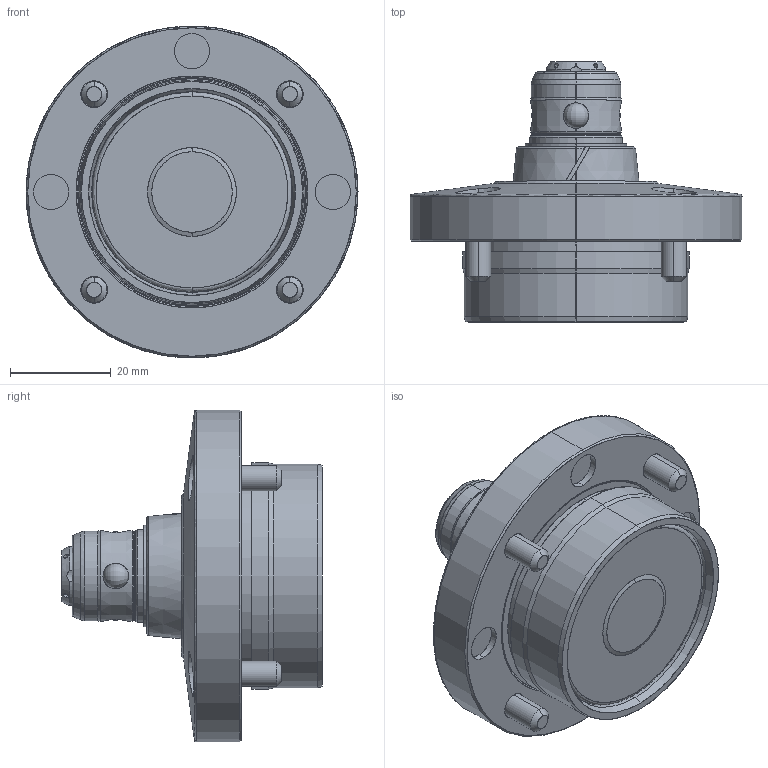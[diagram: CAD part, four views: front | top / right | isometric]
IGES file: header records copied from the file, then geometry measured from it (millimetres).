
Start section: SolidWorks IGES file using analytic representation for surfaces
Global section: file name: C:\Documents and Settings\D211\デスクトップ\IGES・STEP203変換用中間ﾌｫﾙﾀﾞ\SWT0020-MD.igs; native system: SolidWorks 2009; preprocessor: SolidWorks 2009; author: D211; date: 100804.162042; units: millimetre
Bounding box: 66 x 51.7 x 66 mm (x, y, z)
Surface area: 23788.1 mm2 (no closed solid volume)
Topology: 0 solids, 0 shells, 334 faces, 5426 edges, 5410 vertices
Faces by surface type: revolution 211, bspline 123
